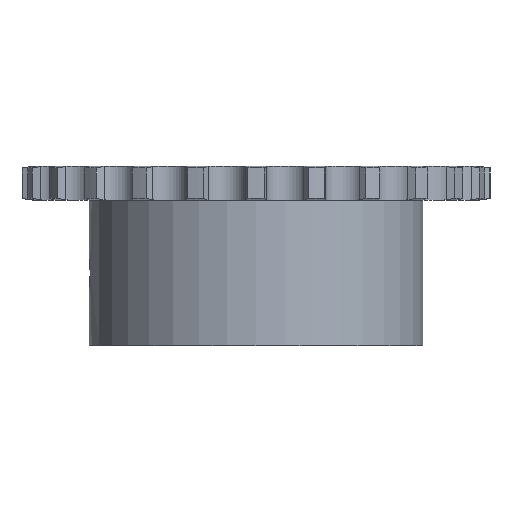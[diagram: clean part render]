
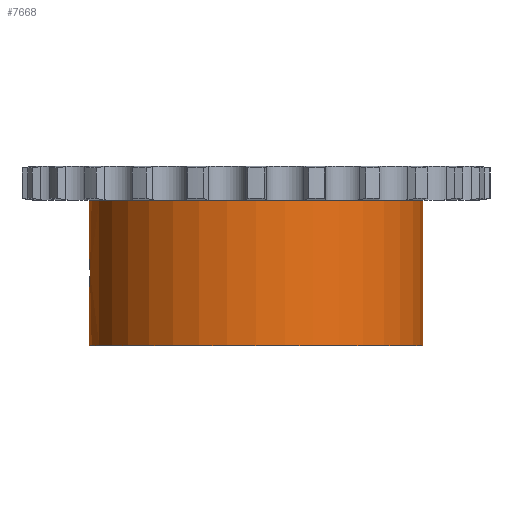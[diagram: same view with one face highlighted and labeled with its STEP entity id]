
A CAD part, front view. The second image highlights one B-rep face of the part: STEP entity #7668.
In plain terms, the highlighted cylindrical face has radius 26 mm (diameter 52 mm), a partial arc.
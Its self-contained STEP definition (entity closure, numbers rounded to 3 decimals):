
#1431=CARTESIAN_POINT('',(0.,0.,-2.65));
#1432=DIRECTION('',(0.,0.,1.));
#1433=DIRECTION('',(-1.,0.,0.));
#1434=AXIS2_PLACEMENT_3D('',#1431,#1432,#1433);
#3876=CARTESIAN_POINT('',(-26.,0.,
-11.5));
#3898=DIRECTION('',(0.,0.,1.));
#3899=VECTOR('',#3898,22.7);
#3900=CARTESIAN_POINT('',(26.,0.,-25.35));
#3901=LINE('',#3900,#3899);
#4013=CARTESIAN_POINT('',(-26.,0.,
-11.5));
#4014=CARTESIAN_POINT('',(-26.,-0.132,
-11.5));
#4015=CARTESIAN_POINT('',(-25.998,-0.395,
-11.52));
#4016=CARTESIAN_POINT('',(-25.989,-0.791,
-11.613));
#4017=CARTESIAN_POINT('',(-25.975,-1.166,
-11.767));
#4018=CARTESIAN_POINT('',(-25.957,-1.509,
-11.977));
#4019=CARTESIAN_POINT('',(-25.937,-1.812,
-12.234));
#4020=CARTESIAN_POINT('',(-25.918,-2.071,
-12.536));
#4021=CARTESIAN_POINT('',(-25.9,-2.28,
-12.876));
#4022=CARTESIAN_POINT('',(-25.886,-2.431,
-13.243));
#4023=CARTESIAN_POINT('',(-25.878,-2.52,
-13.624));
#4024=CARTESIAN_POINT('',(-25.876,-2.539,
-13.874));
#4025=CARTESIAN_POINT('',(-25.876,-2.539,
-14.));
#4030=DIRECTION('',(0.,0.,1.));
#4031=VECTOR('',#4030,8.85);
#4032=CARTESIAN_POINT('',(-26.,0.,
-11.5));
#4033=LINE('',#4032,#4031);
#4037=DIRECTION('',(0.,0.,1.));
#4038=VECTOR('',#4037,8.85);
#4039=CARTESIAN_POINT('',(-26.,0.,-25.35));
#4040=LINE('',#4039,#4038);
#4044=CARTESIAN_POINT('',(-25.876,-2.539,
-14.));
#4045=CARTESIAN_POINT('',(-25.876,-2.539,
-14.139));
#4046=CARTESIAN_POINT('',(-25.878,-2.516,
-14.417));
#4047=CARTESIAN_POINT('',(-25.889,-2.406,
-14.84));
#4048=CARTESIAN_POINT('',(-25.905,-2.219,
-15.241));
#4049=CARTESIAN_POINT('',(-25.926,-1.964,
-15.604));
#4050=CARTESIAN_POINT('',(-25.948,-1.651,
-15.916));
#4051=CARTESIAN_POINT('',(-25.969,-1.287,
-16.17));
#4052=CARTESIAN_POINT('',(-25.986,-0.878,
-16.36));
#4053=CARTESIAN_POINT('',(-25.998,-0.44,
-16.475));
#4054=CARTESIAN_POINT('',(-26.,-0.148,
-16.5));
#4055=CARTESIAN_POINT('',(-26.,0.,
-16.5));
#4068=CARTESIAN_POINT('',(0.,0.,-25.35));
#4069=DIRECTION('',(0.,0.,-1.));
#4070=DIRECTION('',(1.,0.,0.));
#4071=AXIS2_PLACEMENT_3D('',#4068,#4069,#4070);
#4475=CARTESIAN_POINT('',(-26.,0.,-25.35));
#4476=CARTESIAN_POINT('',(26.,0.,-25.35));
#4477=VERTEX_POINT('',#4475);
#4478=VERTEX_POINT('',#4476);
#4479=CARTESIAN_POINT('',(26.,0.,-2.65));
#4480=VERTEX_POINT('',#4479);
#4481=CARTESIAN_POINT('',(-26.,0.,-2.65));
#4482=VERTEX_POINT('',#4481);
#4754=VERTEX_POINT('',#3876);
#4757=VERTEX_POINT('',#4025);
#4759=VERTEX_POINT('',#4055);
#7652=CARTESIAN_POINT('',(0.,0.,2.65));
#7653=DIRECTION('',(0.,0.,1.));
#7654=DIRECTION('',(1.,0.,0.));
#7655=AXIS2_PLACEMENT_3D('',#7652,#7653,#7654);
#7656=CYLINDRICAL_SURFACE('',#7655,26.);
#7657=ORIENTED_EDGE('',*,*,#7642,.F.);
#7658=ORIENTED_EDGE('',*,*,#7293,.T.);
#7659=ORIENTED_EDGE('',*,*,#6348,.T.);
#7660=ORIENTED_EDGE('',*,*,#7290,.F.);
#7662=ORIENTED_EDGE('',*,*,#7661,.T.);
#7663=ORIENTED_EDGE('',*,*,#7286,.T.);
#7665=ORIENTED_EDGE('',*,*,#7664,.F.);
#7666=EDGE_LOOP('',(#7657,#7658,#7659,#7660,#7662,#7663,#7665));
#7667=FACE_OUTER_BOUND('',#7666,.F.);
#7668=ADVANCED_FACE('',(#7667),#7656,.T.);
#1435=CIRCLE('',#1434,26.);
#4026=B_SPLINE_CURVE_WITH_KNOTS('',3,(#4013,#4014,#4015,#4016,#4017,#4018,#4019,
#4020,#4021,#4022,#4023,#4024,#4025),.UNSPECIFIED.,.F.,.F.,(4,1,1,1,1,1,1,1,1,1,
4),(0.,0.1,0.2,0.3,0.4,0.5,0.6,0.7,0.8,0.9,1.),
.UNSPECIFIED.);
#4056=B_SPLINE_CURVE_WITH_KNOTS('',3,(#4044,#4045,#4046,#4047,#4048,#4049,#4050,
#4051,#4052,#4053,#4054,#4055),.UNSPECIFIED.,.F.,.F.,(4,1,1,1,1,1,1,1,1,4),
(0.,0.111,0.222,0.333,0.444,
0.556,0.667,0.778,0.889,1.),
.UNSPECIFIED.);
#4072=CIRCLE('',#4071,26.);
#6348=EDGE_CURVE('',#4482,#4480,#1435,.T.);
#7286=EDGE_CURVE('',#4477,#4759,#4040,.T.);
#7290=EDGE_CURVE('',#4478,#4480,#3901,.T.);
#7293=EDGE_CURVE('',#4754,#4482,#4033,.T.);
#7642=EDGE_CURVE('',#4754,#4757,#4026,.T.);
#7661=EDGE_CURVE('',#4478,#4477,#4072,.T.);
#7664=EDGE_CURVE('',#4757,#4759,#4056,.T.);
